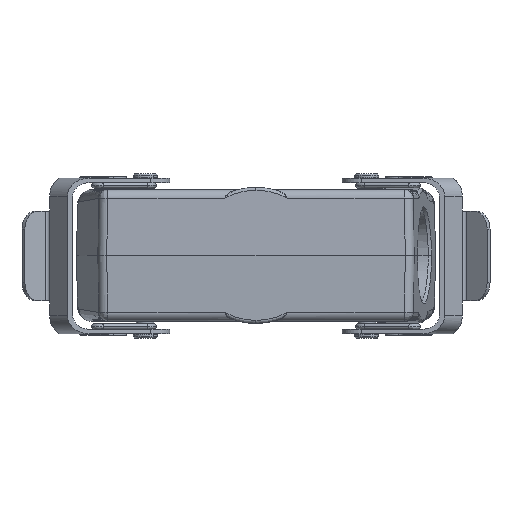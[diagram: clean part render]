
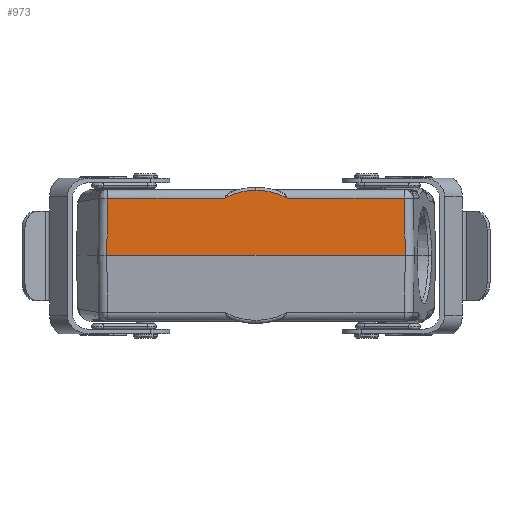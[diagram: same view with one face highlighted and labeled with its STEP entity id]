
A CAD part, top view. The second image highlights one B-rep face of the part: STEP entity #973.
In plain terms, the highlighted planar face has unit normal (0, 0.018, 1) as drawn and (0, 1, -0.017) by its records, which use the part's own axes.
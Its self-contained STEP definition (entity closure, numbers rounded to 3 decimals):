
#123 = LINE ( 'NONE', #13349, #14556 ) ;
#690 = CARTESIAN_POINT ( 'NONE',  ( -49.622, 75.667, -19.052 ) ) ;
#973 = ADVANCED_FACE ( 'NONE', ( #20430 ), #33677, .T. ) ;
#1622 = VERTEX_POINT ( 'NONE', #3703 ) ;
#2094 = LINE ( 'NONE', #4547, #4135 ) ;
#2125 = VERTEX_POINT ( 'NONE', #5298 ) ;
#2738 = DIRECTION ( 'NONE',  ( -1., 0., 0. ) ) ;
#3703 = CARTESIAN_POINT ( 'NONE',  ( 10.523, 75.667, -19.052 ) ) ;
#4135 = VECTOR ( 'NONE', #33305, 1000. ) ;
#4547 = CARTESIAN_POINT ( 'NONE',  ( 52.5, 75.667, -19.052 ) ) ;
#4825 = CARTESIAN_POINT ( 'NONE',  ( -0.007, 75.62, -21.767 ) ) ;
#4972 = ORIENTED_EDGE ( 'NONE', *, *, #26806, .T. ) ;
#5298 = CARTESIAN_POINT ( 'NONE',  ( -10.523, 75.667, -19.052 ) ) ;
#5888 = VERTEX_POINT ( 'NONE', #19458 ) ;
#6189 = VECTOR ( 'NONE', #2738, 1000. ) ;
#6285 = EDGE_CURVE ( 'NONE', #21945, #5888, #20193, .T. ) ;
#6700 = VERTEX_POINT ( 'NONE', #18376 ) ;
#7042 = CARTESIAN_POINT ( 'NONE',  ( 49.622, 75.667, -19.053 ) ) ;
#7450 = CARTESIAN_POINT ( 'NONE',  ( -0.007, 75.62, -21.767 ) ) ;
#8312 = LINE ( 'NONE', #25384, #21512 ) ;
#9458 = ORIENTED_EDGE ( 'NONE', *, *, #33463, .T. ) ;
#9679 = DIRECTION ( 'NONE',  ( 0., 0.017, 1. ) ) ;
#9853 = ORIENTED_EDGE ( 'NONE', *, *, #30311, .T. ) ;
#11266 = CARTESIAN_POINT ( 'NONE',  ( -10.523, 75.667, -19.052 ) ) ;
#12661 = CARTESIAN_POINT ( 'NONE',  ( 1.837, 75.62, -21.767 ) ) ;
#12694 = EDGE_LOOP ( 'NONE', ( #9853, #15723, #9458, #32472, #4972, #24796, #22787 ) ) ;
#13349 = CARTESIAN_POINT ( 'NONE',  ( 52.5, 75.667, -19.052 ) ) ;
#14149 = LINE ( 'NONE', #690, #31818 ) ;
#14556 = VECTOR ( 'NONE', #31729, 1000. ) ;
#14840 = CARTESIAN_POINT ( 'NONE',  ( 7.212, 75.64, -20.619 ) ) ;
#14842 = EDGE_CURVE ( 'NONE', #27602, #1622, #123, .T. ) ;
#14963 = DIRECTION ( 'NONE',  ( 0., 1., -0.017 ) ) ;
#15723 = ORIENTED_EDGE ( 'NONE', *, *, #6285, .F. ) ;
#16180 = CARTESIAN_POINT ( 'NONE',  ( -7.218, 75.64, -20.617 ) ) ;
#17460 = CARTESIAN_POINT ( 'NONE',  ( 3.65, 75.624, -21.538 ) ) ;
#17488 = EDGE_CURVE ( 'NONE', #2125, #6700, #2094, .T. ) ;
#18376 = CARTESIAN_POINT ( 'NONE',  ( -49.622, 75.667, -19.052 ) ) ;
#19054 = CARTESIAN_POINT ( 'NONE',  ( -1.848, 75.62, -21.766 ) ) ;
#19458 = CARTESIAN_POINT ( 'NONE',  ( -49.909, 76., 0. ) ) ;
#19616 = AXIS2_PLACEMENT_3D ( 'NONE', #25631, #14963, #9679 ) ;
#20193 = LINE ( 'NONE', #28657, #6189 ) ;
#20430 = FACE_OUTER_BOUND ( 'NONE', #12694, .T. ) ;
#21512 = VECTOR ( 'NONE', #27561, 1000. ) ;
#21843 = CARTESIAN_POINT ( 'NONE',  ( -8.913, 75.652, -19.942 ) ) ;
#21945 = VERTEX_POINT ( 'NONE', #29025 ) ;
#22256 = VERTEX_POINT ( 'NONE', #4825 ) ;
#22549 = CARTESIAN_POINT ( 'NONE',  ( 10.523, 75.667, -19.052 ) ) ;
#22787 = ORIENTED_EDGE ( 'NONE', *, *, #17488, .T. ) ;
#24796 = ORIENTED_EDGE ( 'NONE', *, *, #30982, .T. ) ;
#25384 = CARTESIAN_POINT ( 'NONE',  ( 49.909, 76., 0. ) ) ;
#25631 = CARTESIAN_POINT ( 'NONE',  ( 52.5, 76., 0. ) ) ;
#26164 = B_SPLINE_CURVE_WITH_KNOTS ( 'NONE', 3,
 ( #26631, #19054, #32276, #16180, #21843, #11266 ),
 .UNSPECIFIED., .F., .F.,
 ( 4, 2, 4 ),
 ( 0., 0.5, 1. ),
 .UNSPECIFIED. ) ;
#26631 = CARTESIAN_POINT ( 'NONE',  ( -0.007, 75.62, -21.767 ) ) ;
#26806 = EDGE_CURVE ( 'NONE', #1622, #22256, #27641, .T. ) ;
#27561 = DIRECTION ( 'NONE',  ( -0.015, -0.017, -1. ) ) ;
#27602 = VERTEX_POINT ( 'NONE', #7042 ) ;
#27641 = B_SPLINE_CURVE_WITH_KNOTS ( 'NONE', 3,
 ( #22549, #27804, #14840, #17460, #12661, #7450 ),
 .UNSPECIFIED., .F., .F.,
 ( 4, 2, 4 ),
 ( 0., 0.5, 1. ),
 .UNSPECIFIED. ) ;
#27804 = CARTESIAN_POINT ( 'NONE',  ( 8.911, 75.652, -19.943 ) ) ;
#28657 = CARTESIAN_POINT ( 'NONE',  ( 52.5, 76., 0. ) ) ;
#29025 = CARTESIAN_POINT ( 'NONE',  ( 49.909, 76., 0. ) ) ;
#30311 = EDGE_CURVE ( 'NONE', #6700, #5888, #14149, .T. ) ;
#30982 = EDGE_CURVE ( 'NONE', #22256, #2125, #26164, .T. ) ;
#31729 = DIRECTION ( 'NONE',  ( -1., 0., 0. ) ) ;
#31818 = VECTOR ( 'NONE', #32229, 1000. ) ;
#32229 = DIRECTION ( 'NONE',  ( -0.015, 0.017, 1. ) ) ;
#32276 = CARTESIAN_POINT ( 'NONE',  ( -3.658, 75.624, -21.536 ) ) ;
#32472 = ORIENTED_EDGE ( 'NONE', *, *, #14842, .T. ) ;
#33305 = DIRECTION ( 'NONE',  ( -1., 0., 0. ) ) ;
#33463 = EDGE_CURVE ( 'NONE', #21945, #27602, #8312, .T. ) ;
#33677 = PLANE ( 'NONE',  #19616 ) ;
